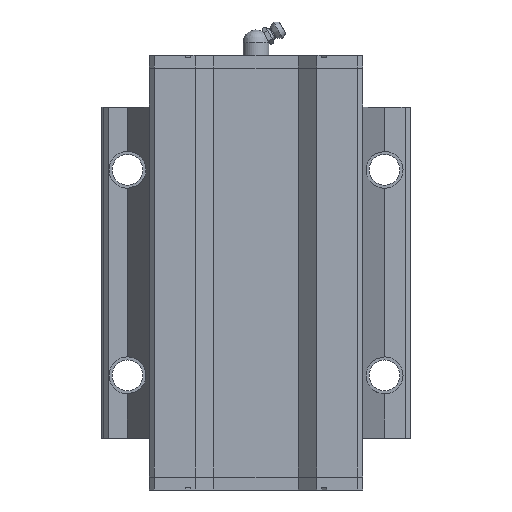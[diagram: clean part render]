
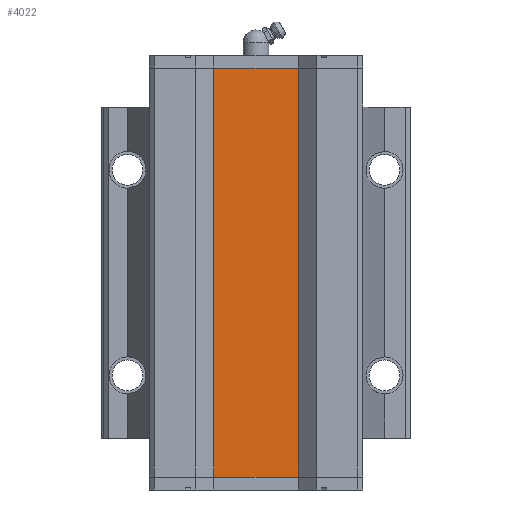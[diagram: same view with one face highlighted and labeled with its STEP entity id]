
A CAD part, front view. The second image highlights one B-rep face of the part: STEP entity #4022.
In plain terms, the highlighted planar face has unit normal (0, -1, 0).
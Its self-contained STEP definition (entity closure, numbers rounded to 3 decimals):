
#14 = PLANE ( 'NONE',  #2876 ) ;
#139 = CARTESIAN_POINT ( 'NONE',  ( -16.515, 28.5, -79.55 ) ) ;
#1007 = EDGE_CURVE ( 'NONE', #2700, #1275, #7630, .T. ) ;
#1275 = VERTEX_POINT ( 'NONE', #4349 ) ;
#1292 = CARTESIAN_POINT ( 'NONE',  ( 16.515, 28.5, -79.55 ) ) ;
#1571 = LINE ( 'NONE', #139, #9056 ) ;
#1973 = DIRECTION ( 'NONE',  ( 1., 0., 0. ) ) ;
#2028 = ORIENTED_EDGE ( 'NONE', *, *, #9278, .T. ) ;
#2098 = EDGE_CURVE ( 'NONE', #3367, #1275, #1571, .T. ) ;
#2188 = DIRECTION ( 'NONE',  ( 0., 0., -1. ) ) ;
#2257 = FACE_OUTER_BOUND ( 'NONE', #6116, .T. ) ;
#2479 = LINE ( 'NONE', #10605, #5098 ) ;
#2569 = CARTESIAN_POINT ( 'NONE',  ( -16.515, 28.5, 79.55 ) ) ;
#2700 = VERTEX_POINT ( 'NONE', #1292 ) ;
#2876 = AXIS2_PLACEMENT_3D ( 'NONE', #6821, #7790, #1973 ) ;
#3367 = VERTEX_POINT ( 'NONE', #2569 ) ;
#3825 = DIRECTION ( 'NONE',  ( -1., 0., 0. ) ) ;
#4022 = ADVANCED_FACE ( 'NONE', ( #2257 ), #14, .F. ) ;
#4349 = CARTESIAN_POINT ( 'NONE',  ( -16.515, 28.5, -79.55 ) ) ;
#5098 = VECTOR ( 'NONE', #3825, 1000. ) ;
#6057 = DIRECTION ( 'NONE',  ( 0., 0., -1. ) ) ;
#6116 = EDGE_LOOP ( 'NONE', ( #10655, #8075, #10936, #2028 ) ) ;
#6724 = CARTESIAN_POINT ( 'NONE',  ( 16.515, 28.5, -79.55 ) ) ;
#6821 = CARTESIAN_POINT ( 'NONE',  ( 16.515, 28.5, -79.55 ) ) ;
#7029 = CARTESIAN_POINT ( 'NONE',  ( 16.515, 28.5, -79.55 ) ) ;
#7630 = LINE ( 'NONE', #6724, #10236 ) ;
#7790 = DIRECTION ( 'NONE',  ( 0., 1., 0. ) ) ;
#8075 = ORIENTED_EDGE ( 'NONE', *, *, #1007, .F. ) ;
#9056 = VECTOR ( 'NONE', #2188, 1000. ) ;
#9278 = EDGE_CURVE ( 'NONE', #12311, #3367, #2479, .T. ) ;
#9649 = EDGE_CURVE ( 'NONE', #12311, #2700, #10846, .T. ) ;
#10236 = VECTOR ( 'NONE', #11524, 1000. ) ;
#10521 = VECTOR ( 'NONE', #6057, 1000. ) ;
#10605 = CARTESIAN_POINT ( 'NONE',  ( 41.58, 28.5, 79.55 ) ) ;
#10655 = ORIENTED_EDGE ( 'NONE', *, *, #2098, .T. ) ;
#10846 = LINE ( 'NONE', #7029, #10521 ) ;
#10936 = ORIENTED_EDGE ( 'NONE', *, *, #9649, .F. ) ;
#11370 = CARTESIAN_POINT ( 'NONE',  ( 16.515, 28.5, 79.55 ) ) ;
#11524 = DIRECTION ( 'NONE',  ( -1., 0., 0. ) ) ;
#12311 = VERTEX_POINT ( 'NONE', #11370 ) ;
